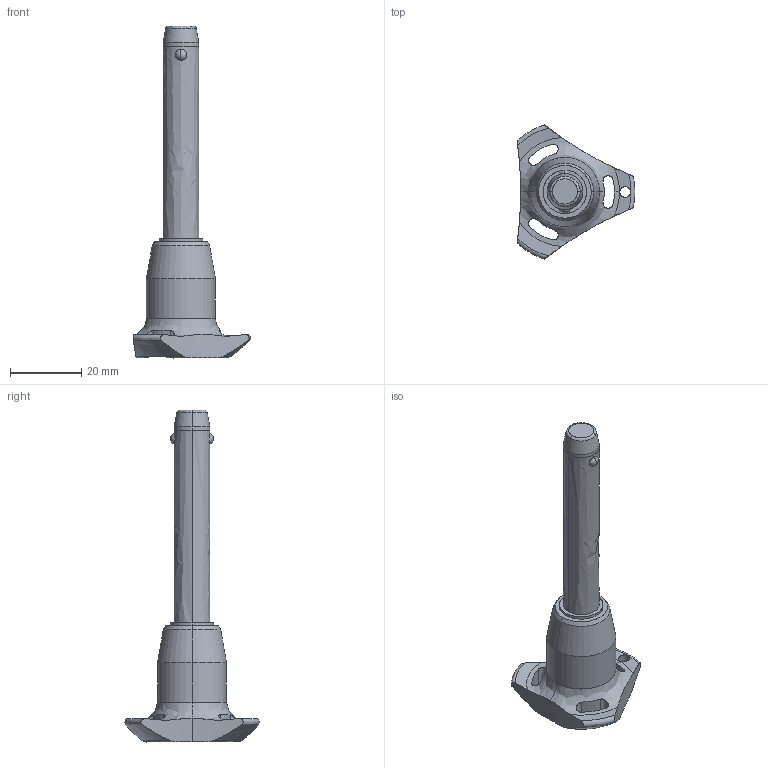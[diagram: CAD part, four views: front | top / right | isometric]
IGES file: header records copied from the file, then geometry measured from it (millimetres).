
Start section: SolidWorks IGES file using analytic representation for surfaces
Global section: file name: C:\Users\ianosborn\Desktop\33060_v2\33060.BK_v2_20240910_IGES\33060.W0850.igs; native system: SolidWorks 2019; preprocessor: SolidWorks 2019; author: IanOsborn; date: 240910.201227; units: millimetre
Bounding box: 33 x 37.51 x 92.9 mm (x, y, z)
Surface area: 5735.4 mm2 (no closed solid volume)
Topology: 0 solids, 0 shells, 68 faces, 1354 edges, 1350 vertices
Faces by surface type: revolution 52, bspline 16
